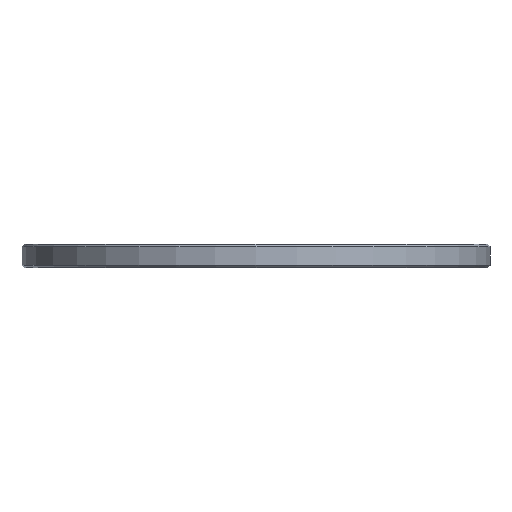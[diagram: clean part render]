
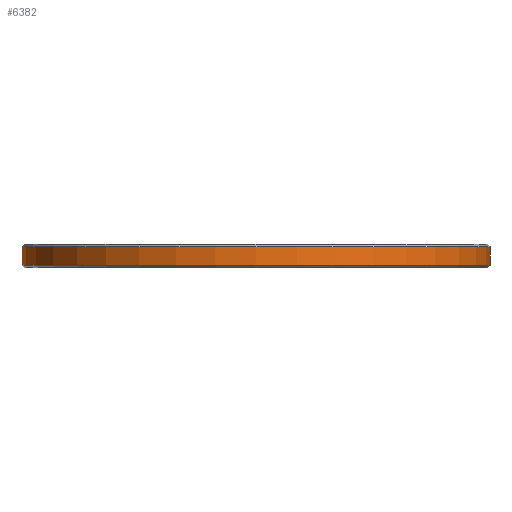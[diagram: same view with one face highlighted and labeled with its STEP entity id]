
A CAD part, front view. The second image highlights one B-rep face of the part: STEP entity #6382.
In plain terms, the highlighted cylindrical face has radius 31.25 mm (diameter 62.5 mm), a full revolution.
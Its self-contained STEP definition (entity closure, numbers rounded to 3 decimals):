
#71=CYLINDRICAL_SURFACE('',#6788,31.25);
#657=FACE_OUTER_BOUND('',#1028,.T.);
#1028=EDGE_LOOP('',(#5915,#5916,#5917,#5918));
#1118=CIRCLE('',#6787,31.25);
#1119=CIRCLE('',#6789,31.25);
#1923=LINE('',#10182,#2738);
#2738=VECTOR('',#8350,31.25);
#3324=VERTEX_POINT('',#10176);
#3325=VERTEX_POINT('',#10180);
#4190=EDGE_CURVE('',#3324,#3324,#1118,.T.);
#4192=EDGE_CURVE('',#3325,#3325,#1119,.T.);
#4193=EDGE_CURVE('',#3325,#3324,#1923,.T.);
#5915=ORIENTED_EDGE('',*,*,#4192,.F.);
#5916=ORIENTED_EDGE('',*,*,#4193,.T.);
#5917=ORIENTED_EDGE('',*,*,#4190,.F.);
#5918=ORIENTED_EDGE('',*,*,#4193,.F.);
#6382=ADVANCED_FACE('',(#657),#71,.T.);
#6787=AXIS2_PLACEMENT_3D('',#10177,#8343,#8344);
#6788=AXIS2_PLACEMENT_3D('',#10179,#8346,#8347);
#6789=AXIS2_PLACEMENT_3D('',#10181,#8348,#8349);
#8343=DIRECTION('center_axis',(0.,0.,-1.));
#8344=DIRECTION('ref_axis',(1.,0.,0.));
#8346=DIRECTION('center_axis',(0.,0.,1.));
#8347=DIRECTION('ref_axis',(1.,0.,0.));
#8348=DIRECTION('center_axis',(0.,0.,1.));
#8349=DIRECTION('ref_axis',(1.,0.,0.));
#8350=DIRECTION('',(0.,0.,-1.));
#10176=CARTESIAN_POINT('',(-31.25,0.,0.3));
#10177=CARTESIAN_POINT('Origin',(0.,0.,0.3));
#10179=CARTESIAN_POINT('Origin',(0.,0.,0.));
#10180=CARTESIAN_POINT('',(-31.25,0.,2.825));
#10181=CARTESIAN_POINT('Origin',(0.,0.,2.825));
#10182=CARTESIAN_POINT('',(-31.25,0.,0.));
